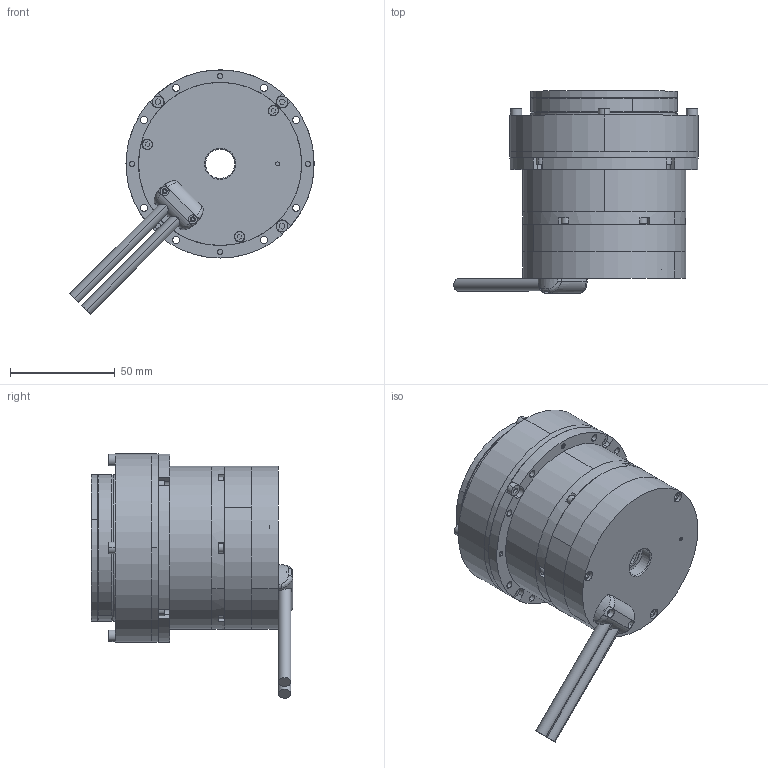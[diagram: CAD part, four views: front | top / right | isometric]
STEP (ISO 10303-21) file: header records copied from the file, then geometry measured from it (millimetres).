
FILE_DESCRIPTION (( 'STEP AP214' ), '1' );
FILE_NAME ('RH-20-B_B.STEP', '2024-05-22T02:09:14', ( '' ), ( '' ), 'SwSTEP 2.0', 'SolidWorks 2020', '' );
FILE_SCHEMA (( 'AUTOMOTIVE_DESIGN' ));
Length unit declared in the file: millimetre
Products named in the file (1): RH-20-B_B
Bounding box: 116.87 x 96.5 x 116.87 mm (x, y, z)
Surface area: 72709.7 mm2 (no closed solid volume)
Topology: 0 solids, 254 shells, 822 faces, 3441 edges, 2863 vertices
Faces by surface type: plane 392, cylinder 290, bspline 97, torus 25, sphere 13, cone 5
Entity records: 47823 total; most frequent: CARTESIAN_POINT 11263, DIRECTION 5472, ORIENTED_EDGE 4530, EDGE_CURVE 3431, VERTEX_POINT 2863, LINE 1868, VECTOR 1868, AXIS2_PLACEMENT_3D 1802
